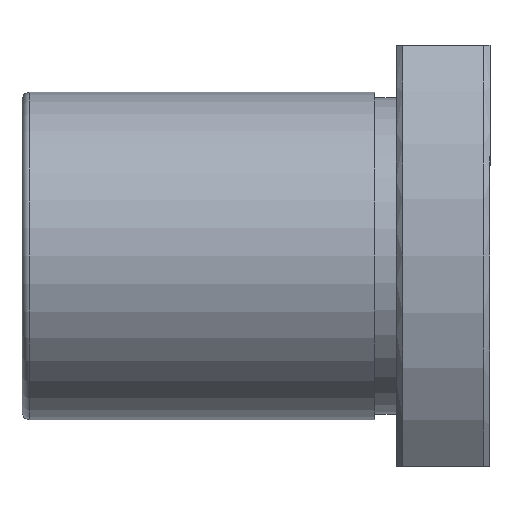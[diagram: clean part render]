
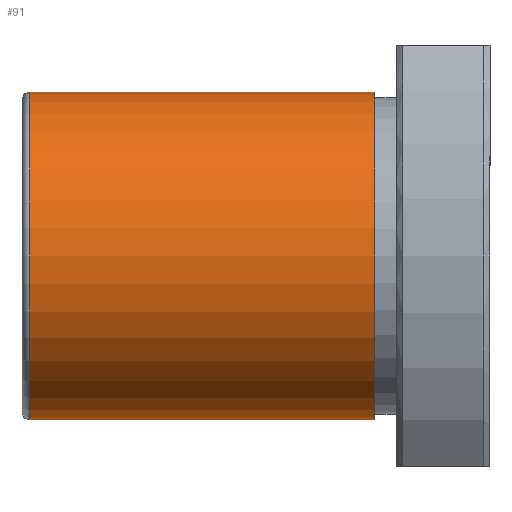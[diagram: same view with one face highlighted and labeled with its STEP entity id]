
A CAD part, front view. The second image highlights one B-rep face of the part: STEP entity #91.
In plain terms, the highlighted cylindrical face has radius 10.5 mm (diameter 21 mm), a full revolution.
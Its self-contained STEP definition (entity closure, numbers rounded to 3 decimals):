
#91=ADVANCED_FACE('',(#144,#145),#146,.T.);
#144=FACE_OUTER_BOUND('',#206,.T.);
#145=FACE_OUTER_BOUND('',#207,.T.);
#146=CYLINDRICAL_SURFACE('',#208,10.5);
#206=EDGE_LOOP('',(#328));
#207=EDGE_LOOP('',(#329));
#208=AXIS2_PLACEMENT_3D('',#330,#331,#332);
#328=ORIENTED_EDGE('',*,*,#402,.F.);
#329=ORIENTED_EDGE('',*,*,#403,.T.);
#330=CARTESIAN_POINT('',(-18.45,0.0,0.));
#331=DIRECTION('',(-1.0,-0.0,0.));
#332=DIRECTION('',(0.0,1.0,0.0));
#402=EDGE_CURVE('',#470,#470,#471,.T.);
#403=EDGE_CURVE('',#472,#472,#473,.T.);
#470=VERTEX_POINT('',#569);
#471=CIRCLE('',#570,10.5);
#472=VERTEX_POINT('',#571);
#473=CIRCLE('',#572,10.5);
#569=CARTESIAN_POINT('',(-29.5,10.5,0.));
#570=AXIS2_PLACEMENT_3D('',#648,#649,#650);
#571=CARTESIAN_POINT('',(-7.4,10.5,0.0));
#572=AXIS2_PLACEMENT_3D('',#651,#652,#653);
#648=CARTESIAN_POINT('',(-29.5,0.0,0.));
#649=DIRECTION('',(-1.0,0.0,0.));
#650=DIRECTION('',(0.0,1.0,0.0));
#651=CARTESIAN_POINT('',(-7.4,0.0,0.0));
#652=DIRECTION('',(-1.0,0.0,0.));
#653=DIRECTION('',(0.0,1.0,0.0));
